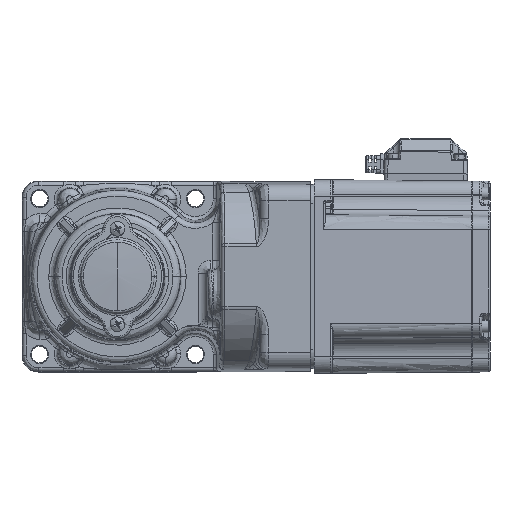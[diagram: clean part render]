
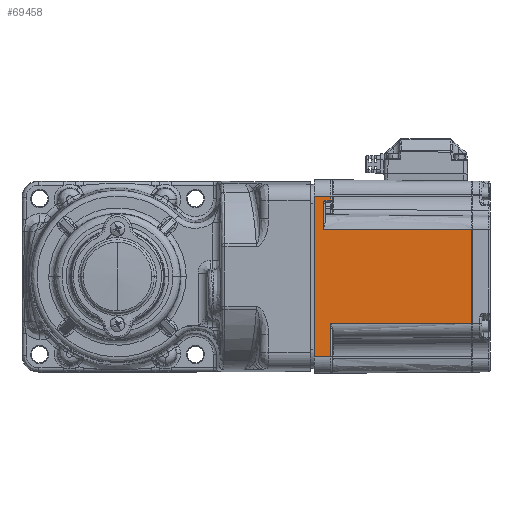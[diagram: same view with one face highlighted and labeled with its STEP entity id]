
A CAD part, front view. The second image highlights one B-rep face of the part: STEP entity #69458.
In plain terms, the highlighted planar face has unit normal (0.009, -1, 0) as drawn and (1, -0.009, 0) by its records, which use the part's own axes.
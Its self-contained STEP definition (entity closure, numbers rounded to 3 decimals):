
#418 = CARTESIAN_POINT ( 'NONE',  ( 52.755, 10., 0. ) ) ;
#693 = LINE ( 'NONE', #1127, #31410 ) ;
#1010 = ORIENTED_EDGE ( 'NONE', *, *, #36776, .F. ) ;
#1127 = CARTESIAN_POINT ( 'NONE',  ( 52.356, -35.754, -25.592 ) ) ;
#1408 = LINE ( 'NONE', #43114, #27449 ) ;
#1730 = VECTOR ( 'NONE', #33599, 1000. ) ;
#3773 = LINE ( 'NONE', #24377, #54657 ) ;
#6167 = CARTESIAN_POINT ( 'NONE',  ( 52.01, -75.359, -43.578 ) ) ;
#7256 = DIRECTION ( 'NONE',  ( 0., 0., -1. ) ) ;
#7858 = DIRECTION ( 'NONE',  ( 0., 0., -1. ) ) ;
#8474 = VECTOR ( 'NONE', #20913, 1000. ) ;
#9134 = CARTESIAN_POINT ( 'NONE',  ( 52.711, 4.991, -40.873 ) ) ;
#10446 = CARTESIAN_POINT ( 'NONE',  ( 52.698, 3.531, -41.512 ) ) ;
#11612 = VECTOR ( 'NONE', #7858, 1000. ) ;
#13176 = FACE_OUTER_BOUND ( 'NONE', #30212, .T. ) ;
#14561 = LINE ( 'NONE', #69293, #11612 ) ;
#15464 = ORIENTED_EDGE ( 'NONE', *, *, #56446, .T. ) ;
#15539 = LINE ( 'NONE', #55033, #8474 ) ;
#16691 = CARTESIAN_POINT ( 'NONE',  ( 52.711, 4.991, -40.013 ) ) ;
#17054 = EDGE_CURVE ( 'NONE', #77339, #36851, #75312, .T. ) ;
#17698 = DIRECTION ( 'NONE',  ( -0.009, -1., 0.009 ) ) ;
#18311 = VECTOR ( 'NONE', #38512, 1000. ) ;
#18457 = VERTEX_POINT ( 'NONE', #61081 ) ;
#19112 = VERTEX_POINT ( 'NONE', #35253 ) ;
#20913 = DIRECTION ( 'NONE',  ( -0.009, -1., -0.009 ) ) ;
#21178 = VERTEX_POINT ( 'NONE', #37083 ) ;
#23726 = ORIENTED_EDGE ( 'NONE', *, *, #81134, .T. ) ;
#24377 = CARTESIAN_POINT ( 'NONE',  ( 52.676, 0.991, 0. ) ) ;
#25497 = CARTESIAN_POINT ( 'NONE',  ( 52.004, -76., 0. ) ) ;
#27449 = VECTOR ( 'NONE', #7256, 1000. ) ;
#28018 = LINE ( 'NONE', #76010, #43451 ) ;
#28784 = VERTEX_POINT ( 'NONE', #88018 ) ;
#30212 = EDGE_LOOP ( 'NONE', ( #77045, #52295, #78307, #70075, #1010, #53607, #67269, #15464, #85210, #68887, #23726 ) ) ;
#31327 = LINE ( 'NONE', #25497, #18311 ) ;
#31410 = VECTOR ( 'NONE', #82723, 1000. ) ;
#31726 = DIRECTION ( 'NONE',  ( -0.009, -1., -0.026 ) ) ;
#31858 = CARTESIAN_POINT ( 'NONE',  ( 52.698, 3.531, -41.512 ) ) ;
#32433 = CARTESIAN_POINT ( 'NONE',  ( 51.997, -76.875, -42.997 ) ) ;
#33479 = LINE ( 'NONE', #6167, #75646 ) ;
#33599 = DIRECTION ( 'NONE',  ( 0., 0., 1. ) ) ;
#34212 = DIRECTION ( 'NONE',  ( 1., -0.009, 0. ) ) ;
#35253 = CARTESIAN_POINT ( 'NONE',  ( 52.676, 0.991, -43.677 ) ) ;
#36776 = EDGE_CURVE ( 'NONE', #21178, #43333, #28018, .T. ) ;
#36851 = VERTEX_POINT ( 'NONE', #69736 ) ;
#37083 = CARTESIAN_POINT ( 'NONE',  ( 52.004, -76.002, 25.592 ) ) ;
#38512 = DIRECTION ( 'NONE',  ( 0., 0., -1. ) ) ;
#41693 = CARTESIAN_POINT ( 'NONE',  ( 52.755, 10., -43.755 ) ) ;
#42070 = EDGE_CURVE ( 'NONE', #77339, #19112, #72418, .T. ) ;
#42824 = VERTEX_POINT ( 'NONE', #31858 ) ;
#43114 = CARTESIAN_POINT ( 'NONE',  ( 52.711, 4.991, 0. ) ) ;
#43333 = VERTEX_POINT ( 'NONE', #57134 ) ;
#43451 = VECTOR ( 'NONE', #54951, 1000. ) ;
#46903 = CARTESIAN_POINT ( 'NONE',  ( 52.676, 0.991, -41.579 ) ) ;
#52295 = ORIENTED_EDGE ( 'NONE', *, *, #17054, .T. ) ;
#53126 = PLANE ( 'NONE',  #67155 ) ;
#53607 = ORIENTED_EDGE ( 'NONE', *, *, #64182, .T. ) ;
#54657 = VECTOR ( 'NONE', #79123, 1000. ) ;
#54951 = DIRECTION ( 'NONE',  ( 0.009, 1., 0. ) ) ;
#55033 = CARTESIAN_POINT ( 'NONE',  ( 51.997, -76.875, 42.997 ) ) ;
#56200 = CARTESIAN_POINT ( 'NONE',  ( 52.706, 4.391, -41.49 ) ) ;
#56446 = EDGE_CURVE ( 'NONE', #18457, #72095, #1408, .T. ) ;
#57134 = CARTESIAN_POINT ( 'NONE',  ( 52.676, 0.991, 25.592 ) ) ;
#60280 = CARTESIAN_POINT ( 'NONE',  ( 52., -76.5, 0. ) ) ;
#60727 = DIRECTION ( 'NONE',  ( 0., 0., -1. ) ) ;
#61081 = CARTESIAN_POINT ( 'NONE',  ( 52.711, 4.991, -25.592 ) ) ;
#64182 = EDGE_CURVE ( 'NONE', #21178, #28784, #31327, .T. ) ;
#65332 = EDGE_CURVE ( 'NONE', #42824, #82166, #33479, .T. ) ;
#65500 = CARTESIAN_POINT ( 'NONE',  ( 52.711, 4.991, -40.013 ) ) ;
#66107 = EDGE_CURVE ( 'NONE', #36851, #85217, #15539, .T. ) ;
#67155 = AXIS2_PLACEMENT_3D ( 'NONE', #60280, #34212, #60727 ) ;
#67269 = ORIENTED_EDGE ( 'NONE', *, *, #68104, .T. ) ;
#68104 = EDGE_CURVE ( 'NONE', #28784, #18457, #693, .T. ) ;
#68887 = ORIENTED_EDGE ( 'NONE', *, *, #65332, .T. ) ;
#69293 = CARTESIAN_POINT ( 'NONE',  ( 52.676, 0.991, 0. ) ) ;
#69458 = ADVANCED_FACE ( 'NONE', ( #13176 ), #53126, .T. ) ;
#69736 = CARTESIAN_POINT ( 'NONE',  ( 52.755, 10., 43.755 ) ) ;
#70075 = ORIENTED_EDGE ( 'NONE', *, *, #79017, .T. ) ;
#72095 = VERTEX_POINT ( 'NONE', #65500 ) ;
#72418 = LINE ( 'NONE', #32433, #81442 ) ;
#75312 = LINE ( 'NONE', #418, #1730 ) ;
#75646 = VECTOR ( 'NONE', #31726, 1000. ) ;
#76010 = CARTESIAN_POINT ( 'NONE',  ( 52.338, -37.754, 25.592 ) ) ;
#77045 = ORIENTED_EDGE ( 'NONE', *, *, #42070, .F. ) ;
#77339 = VERTEX_POINT ( 'NONE', #41693 ) ;
#78307 = ORIENTED_EDGE ( 'NONE', *, *, #66107, .T. ) ;
#79017 = EDGE_CURVE ( 'NONE', #85217, #43333, #14561, .T. ) ;
#79123 = DIRECTION ( 'NONE',  ( 0., 0., -1. ) ) ;
#81134 = EDGE_CURVE ( 'NONE', #82166, #19112, #3773, .T. ) ;
#81442 = VECTOR ( 'NONE', #17698, 1000. ) ;
#82166 = VERTEX_POINT ( 'NONE', #46903 ) ;
#82610 = EDGE_CURVE ( 'NONE', #72095, #42824, #87122, .T. ) ;
#82723 = DIRECTION ( 'NONE',  ( 0.009, 1., 0. ) ) ;
#85210 = ORIENTED_EDGE ( 'NONE', *, *, #82610, .T. ) ;
#85217 = VERTEX_POINT ( 'NONE', #85524 ) ;
#85524 = CARTESIAN_POINT ( 'NONE',  ( 52.676, 0.991, 43.677 ) ) ;
#87122 =( BOUNDED_CURVE ( )  B_SPLINE_CURVE ( 3, ( #16691, #9134, #56200, #10446 ),
 .UNSPECIFIED., .F., .F. ) 
 B_SPLINE_CURVE_WITH_KNOTS ( ( 4, 4 ),
 ( 3.142, 4.686 ),
 .UNSPECIFIED. ) 
 CURVE ( )  GEOMETRIC_REPRESENTATION_ITEM ( )  RATIONAL_B_SPLINE_CURVE ( ( 1., 0.811, 0.811, 1. ) ) 
 REPRESENTATION_ITEM ( '' )  );
#88018 = CARTESIAN_POINT ( 'NONE',  ( 52.004, -76.002, -25.592 ) ) ;
